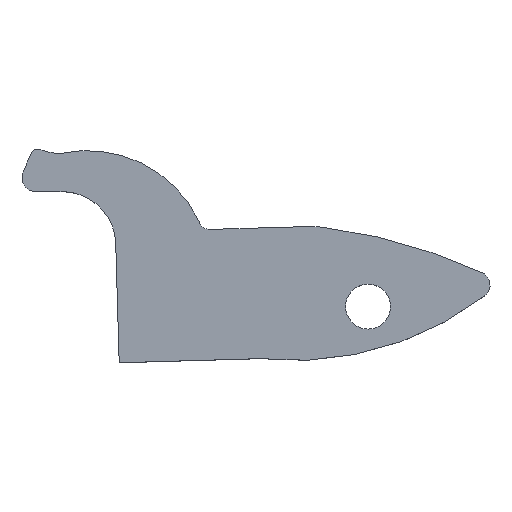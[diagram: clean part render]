
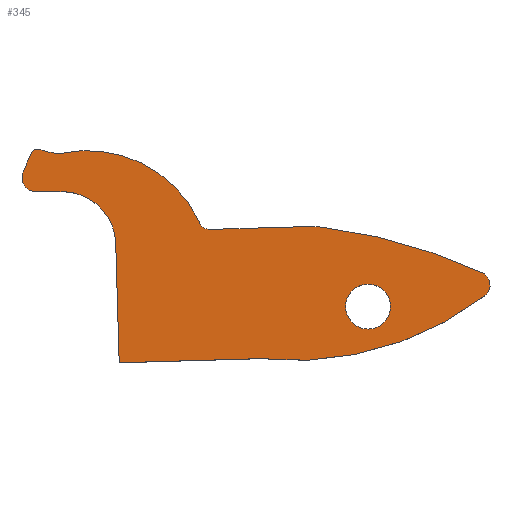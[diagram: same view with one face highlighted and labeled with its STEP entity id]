
A CAD part, top view. The second image highlights one B-rep face of the part: STEP entity #345.
In plain terms, the highlighted planar face has unit normal (0, 0, 1).
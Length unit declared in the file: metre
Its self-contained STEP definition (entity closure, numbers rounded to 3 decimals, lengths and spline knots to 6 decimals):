
#13=CIRCLE('',#368,0.02935);
#16=CIRCLE('',#372,0.050792);
#17=CIRCLE('',#374,0.011537);
#19=CIRCLE('',#377,0.006065);
#21=CIRCLE('',#380,0.000635);
#23=CIRCLE('',#383,0.034553);
#25=CIRCLE('',#386,0.00127);
#27=CIRCLE('',#390,0.005016);
#29=CIRCLE('',#394,0.0021);
#30=CIRCLE('',#395,0.01);
#31=CIRCLE('',#396,0.001);
#32=CIRCLE('',#397,0.00127);
#93=ORIENTED_EDGE('',*,*,#184,.F.);
#94=ORIENTED_EDGE('',*,*,#158,.F.);
#95=ORIENTED_EDGE('',*,*,#185,.T.);
#96=ORIENTED_EDGE('',*,*,#186,.T.);
#97=ORIENTED_EDGE('',*,*,#187,.T.);
#98=ORIENTED_EDGE('',*,*,#188,.F.);
#99=ORIENTED_EDGE('',*,*,#160,.F.);
#100=ORIENTED_EDGE('',*,*,#164,.F.);
#101=ORIENTED_EDGE('',*,*,#167,.F.);
#102=ORIENTED_EDGE('',*,*,#170,.F.);
#103=ORIENTED_EDGE('',*,*,#173,.F.);
#104=ORIENTED_EDGE('',*,*,#176,.F.);
#105=ORIENTED_EDGE('',*,*,#179,.F.);
#106=ORIENTED_EDGE('',*,*,#182,.F.);
#107=ORIENTED_EDGE('',*,*,#149,.F.);
#108=ORIENTED_EDGE('',*,*,#153,.F.);
#109=ORIENTED_EDGE('',*,*,#189,.F.);
#149=EDGE_CURVE('',#199,#200,#233,.T.);
#153=EDGE_CURVE('',#203,#199,#13,.T.);
#158=EDGE_CURVE('',#207,#208,#16,.T.);
#160=EDGE_CURVE('',#209,#210,#17,.T.);
#164=EDGE_CURVE('',#213,#209,#19,.T.);
#167=EDGE_CURVE('',#215,#213,#21,.T.);
#170=EDGE_CURVE('',#217,#215,#23,.T.);
#173=EDGE_CURVE('',#219,#217,#25,.T.);
#176=EDGE_CURVE('',#221,#219,#245,.T.);
#179=EDGE_CURVE('',#223,#221,#27,.T.);
#182=EDGE_CURVE('',#200,#223,#249,.T.);
#184=EDGE_CURVE('',#225,#225,#29,.T.);
#185=EDGE_CURVE('',#207,#226,#30,.T.);
#186=EDGE_CURVE('',#226,#227,#251,.T.);
#187=EDGE_CURVE('',#227,#228,#31,.F.);
#188=EDGE_CURVE('',#210,#228,#252,.T.);
#189=EDGE_CURVE('',#208,#203,#32,.T.);
#199=VERTEX_POINT('',#525);
#200=VERTEX_POINT('',#526);
#203=VERTEX_POINT('',#534);
#207=VERTEX_POINT('',#543);
#208=VERTEX_POINT('',#545);
#209=VERTEX_POINT('',#549);
#210=VERTEX_POINT('',#550);
#213=VERTEX_POINT('',#561);
#215=VERTEX_POINT('',#567);
#217=VERTEX_POINT('',#573);
#219=VERTEX_POINT('',#579);
#221=VERTEX_POINT('',#585);
#223=VERTEX_POINT('',#591);
#225=VERTEX_POINT('',#600);
#226=VERTEX_POINT('',#602);
#227=VERTEX_POINT('',#604);
#228=VERTEX_POINT('',#606);
#233=LINE('',#524,#258);
#245=LINE('',#584,#270);
#249=LINE('',#596,#274);
#251=LINE('',#603,#276);
#252=LINE('',#607,#277);
#258=VECTOR('',#413,1.);
#270=VECTOR('',#469,1.);
#274=VECTOR('',#481,1.);
#276=VECTOR('',#489,1.);
#277=VECTOR('',#492,1.);
#294=EDGE_LOOP('',(#93));
#295=EDGE_LOOP('',(#94,#95,#96,#97,#98,#99,#100,#101,#102,#103,#104,#105,
#106,#107,#108,#109));
#316=FACE_BOUND('',#294,.T.);
#317=FACE_BOUND('',#295,.T.);
#330=PLANE('',#393);
#345=ADVANCED_FACE('',(#316,#317),#330,.T.);
#368=AXIS2_PLACEMENT_3D('',#533,#419,#420);
#372=AXIS2_PLACEMENT_3D('',#544,#429,#430);
#374=AXIS2_PLACEMENT_3D('',#548,#434,#435);
#377=AXIS2_PLACEMENT_3D('',#560,#441,#442);
#380=AXIS2_PLACEMENT_3D('',#566,#448,#449);
#383=AXIS2_PLACEMENT_3D('',#572,#455,#456);
#386=AXIS2_PLACEMENT_3D('',#578,#462,#463);
#390=AXIS2_PLACEMENT_3D('',#590,#474,#475);
#393=AXIS2_PLACEMENT_3D('',#598,#483,#484);
#394=AXIS2_PLACEMENT_3D('',#599,#485,#486);
#395=AXIS2_PLACEMENT_3D('',#601,#487,#488);
#396=AXIS2_PLACEMENT_3D('',#605,#490,#491);
#397=AXIS2_PLACEMENT_3D('',#608,#493,#494);
#413=DIRECTION('',(-1.,-0.029,0.));
#419=DIRECTION('',(0.,0.,-1.));
#420=DIRECTION('',(1.,0.,0.));
#429=DIRECTION('',(0.,0.,-1.));
#430=DIRECTION('',(-1.,0.,0.));
#434=DIRECTION('',(0.,0.,-1.));
#435=DIRECTION('',(1.,0.,0.));
#441=DIRECTION('',(0.,0.,1.));
#442=DIRECTION('',(1.,0.,0.));
#448=DIRECTION('',(0.,0.,-1.));
#449=DIRECTION('',(-1.,0.,0.));
#455=DIRECTION('',(0.,0.,-1.));
#456=DIRECTION('',(1.,0.,0.));
#462=DIRECTION('',(0.,0.,-1.));
#463=DIRECTION('',(1.,0.,0.));
#469=DIRECTION('',(-1.,0.,0.));
#474=DIRECTION('',(0.,0.,1.));
#475=DIRECTION('',(1.,0.,0.));
#481=DIRECTION('',(-0.029,1.,0.));
#483=DIRECTION('',(0.,0.,1.));
#484=DIRECTION('',(1.,0.,0.));
#485=DIRECTION('',(0.,0.,1.));
#486=DIRECTION('',(1.,0.,0.));
#487=DIRECTION('',(0.,0.,1.));
#488=DIRECTION('',(1.,0.,0.));
#489=DIRECTION('',(-1.,-0.029,0.));
#490=DIRECTION('',(0.,0.,1.));
#491=DIRECTION('',(1.,0.,0.));
#492=DIRECTION('',(0.435,-0.9,0.));
#493=DIRECTION('',(0.,0.,-1.));
#494=DIRECTION('',(1.,0.,0.));
#524=CARTESIAN_POINT('',(-0.023239,-0.005247,0.001524));
#525=CARTESIAN_POINT('',(-0.010132,-0.004868,0.001524));
#526=CARTESIAN_POINT('',(-0.023239,-0.005247,0.001524));
#533=CARTESIAN_POINT('',(-0.006929,0.024307,0.001524));
#534=CARTESIAN_POINT('',(0.010889,0.000985,0.001524));
#543=CARTESIAN_POINT('',(-0.004122,0.007389,0.001524));
#544=CARTESIAN_POINT('',(-0.010593,-0.042989,0.001524));
#545=CARTESIAN_POINT('',(0.010649,0.003148,0.001524));
#548=CARTESIAN_POINT('',(-0.026217,0.003026,0.001524));
#549=CARTESIAN_POINT('',(-0.028724,0.014287,0.001524));
#550=CARTESIAN_POINT('',(-0.01583,0.008048,0.001524));
#560=CARTESIAN_POINT('',(-0.028575,0.020351,0.001524));
#561=CARTESIAN_POINT('',(-0.030651,0.014652,0.001524));
#566=CARTESIAN_POINT('',(-0.030869,0.014055,0.001524));
#567=CARTESIAN_POINT('',(-0.031446,0.014318,0.001524));
#572=CARTESIAN_POINT('',(0.,0.,0.001524));
#573=CARTESIAN_POINT('',(-0.032228,0.012459,0.001524));
#578=CARTESIAN_POINT('',(-0.031044,0.012001,0.001524));
#579=CARTESIAN_POINT('',(-0.031044,0.010731,0.001524));
#584=CARTESIAN_POINT('',(-0.028575,0.010731,0.001524));
#585=CARTESIAN_POINT('',(-0.028575,0.010731,0.001524));
#590=CARTESIAN_POINT('',(-0.028575,0.005715,0.001524));
#591=CARTESIAN_POINT('',(-0.023561,0.00586,0.001524));
#596=CARTESIAN_POINT('',(-0.023239,-0.005247,0.001524));
#598=CARTESIAN_POINT('',(-0.028575,0.005715,0.001524));
#599=CARTESIAN_POINT('',(0.,0.,0.001524));
#600=CARTESIAN_POINT('',(0.0021,0.,0.001524));
#601=CARTESIAN_POINT('',(-0.005396,-0.002529,0.001524));
#602=CARTESIAN_POINT('',(-0.005686,0.007466,0.001524));
#603=CARTESIAN_POINT('',(-0.010178,0.007336,0.001524));
#604=CARTESIAN_POINT('',(-0.014765,0.007203,0.001524));
#605=CARTESIAN_POINT('',(-0.014794,0.008203,0.001524));
#606=CARTESIAN_POINT('',(-0.015694,0.007768,0.001524));
#607=CARTESIAN_POINT('',(-0.015621,0.007616,0.001524));
#608=CARTESIAN_POINT('',(0.010118,0.001994,0.001524));
